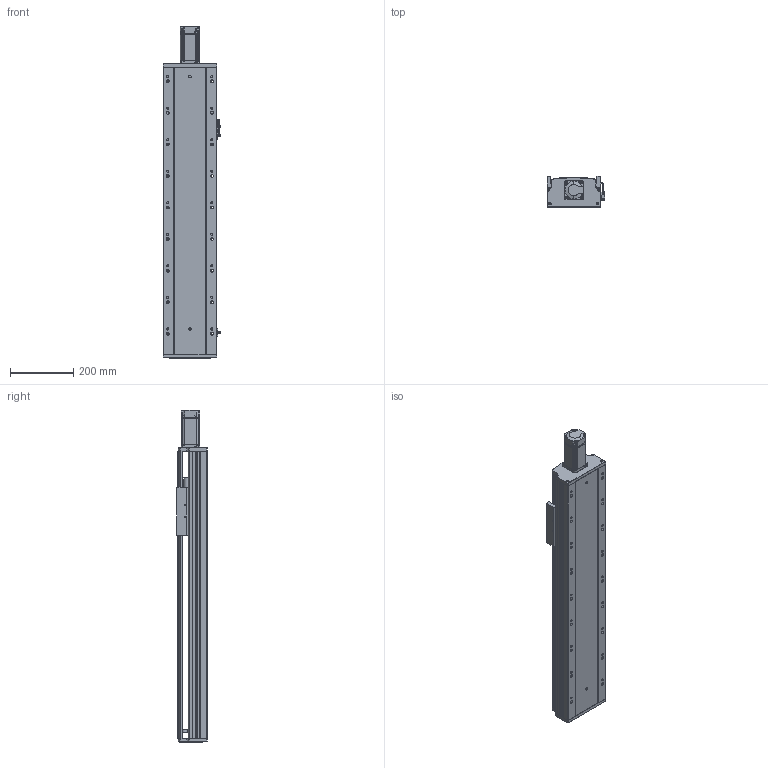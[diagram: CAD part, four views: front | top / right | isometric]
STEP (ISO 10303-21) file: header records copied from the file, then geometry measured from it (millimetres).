
FILE_DESCRIPTION (( 'STEP AP203' ), '1' );
FILE_NAME ('RY170-L2020-300-MK.SLDASM_600.step', '2021-02-20T03:50:47', ( '盈信电脑' ), ( '东莞市道滘镇水果街19号' ), 'SwSTEP 2.0', 'SolidWorks 2012', '' );
FILE_SCHEMA (( 'CONFIG_CONTROL_DESIGN' ));
Length unit declared in the file: millimetre
Products named in the file (12): RY170-L2020-300-MK.SLDASM_600; RY170外置感应片(200共用）; 滅袉蝶18-10; 滅袉蝶18-28; RY170ヶ醱裔啣; 侂狟400W侜督萇儂; RY170綴裔啣; 15; 覜茼ん672; RY170-300倰第裔啣-MK_600; RY170-300倰第菁釱-MK_600; RY170臏賑輸20佪裝蹟譫
Assembly tree (13 placements, depth 3):
  RY170-L2020-300-MK.SLDASM_600
    RY170-300倰第菁釱-MK_600
    RY170-300倰第裔啣-MK_600
    RY170臏賑輸20佪裝蹟譫
    侂狟400W侜督萇儂
      15
    RY170綴裔啣
    覜茼ん672  x3
    RY170外置感应片(200共用）
    RY170ヶ醱裔啣
    滅袉蝶18-28
    滅袉蝶18-10
Bounding box: 183.7 x 97 x 1052.5 mm (x, y, z)
Volume: 5030250.1 mm3; surface area: 1584164.4 mm2
Topology: 12 solids, 12 shells, 2154 faces, 6220 edges, 4028 vertices
Faces by surface type: plane 1166, cylinder 796, cone 163, bspline 29
Entity records: 69125 total; most frequent: CARTESIAN_POINT 15581, ORIENTED_EDGE 11252, DIRECTION 10569, EDGE_CURVE 5626, VERTEX_POINT 3708, LINE 3589, VECTOR 3589, AXIS2_PLACEMENT_3D 3490
